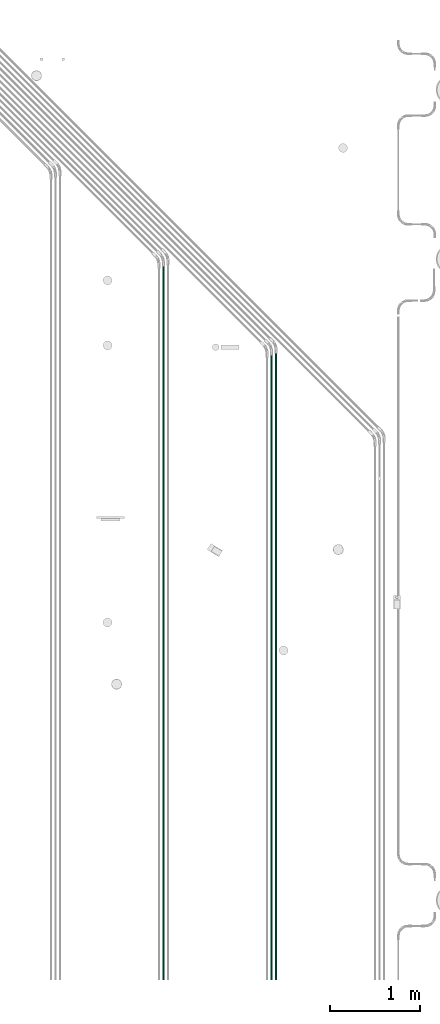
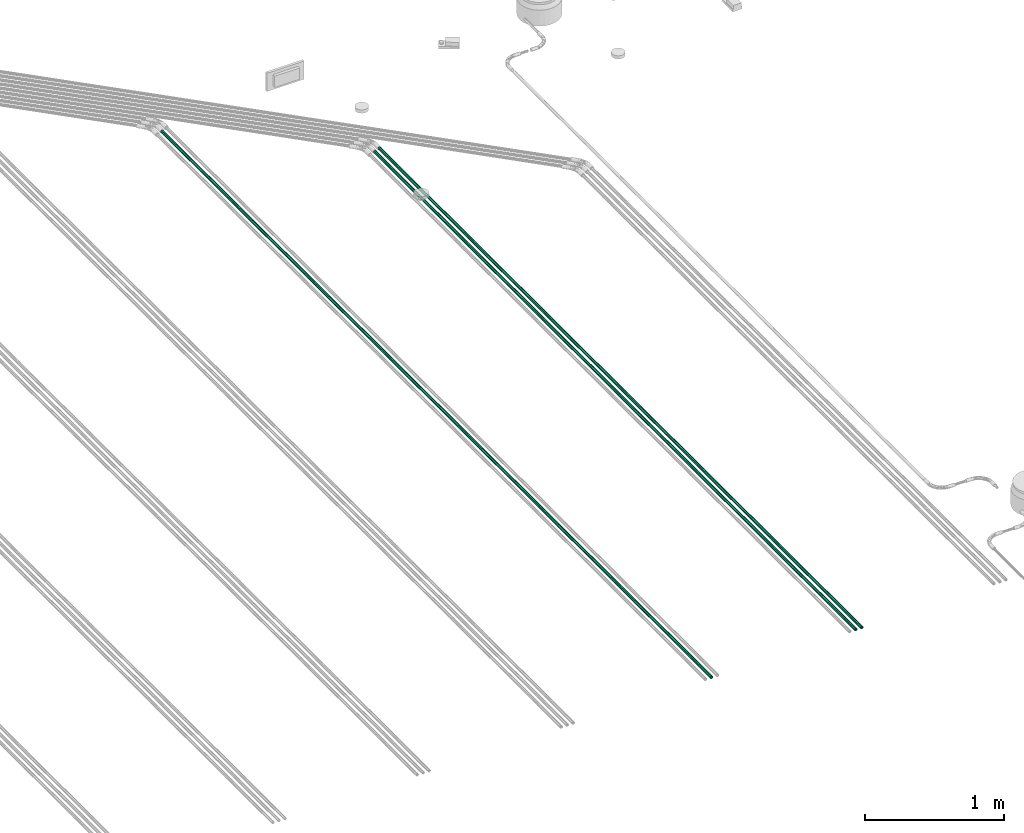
# One storey, part 37 of 51: 3 flow segments.
"""IFC2X3 building model written with IfcOpenShell, lengths in millimetres."""

from ifc_helpers import new_model, entity, si_unit, converted_unit, derived_unit, direction, frame, place, context, subcontext, project, spatial, faceted_brep, type_object, element, save


model = new_model("IFC2X3")

# Units and contexts
model_context = context("Model", 3, precision=0.01, world=frame((0.0, 4.29681676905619e-09, 0.0)), true_north=direction((4.01073788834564e-13, 1.0)))
plan_context = context("Plan", 3, precision=0.01, world=frame((0.0, 4.29681676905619e-09, 0.0)), true_north=direction((4.01073788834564e-13, 1.0)))
body_context = subcontext(model_context, "Body", "Model", "MODEL_VIEW")
ifc_project = project(units=[converted_unit("PLANEANGLEUNIT", "DEGREE", entity("IfcPositiveLengthMeasure", 0.0174532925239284), si_unit("PLANEANGLEUNIT", "RADIAN"), dimensions=[0, 0, 0, 0, 0, 0, 0]), si_unit("AREAUNIT", "SQUARE_METRE"), si_unit("LENGTHUNIT", "METRE", prefix="MILLI"), si_unit("MASSUNIT", "GRAM", prefix="KILO"), si_unit("POWERUNIT", "WATT"), si_unit("PRESSUREUNIT", "PASCAL"), si_unit("FORCEUNIT", "NEWTON", prefix="KILO"), si_unit("ELECTRICVOLTAGEUNIT", "VOLT"), si_unit("ELECTRICCURRENTUNIT", "AMPERE"), si_unit("THERMODYNAMICTEMPERATUREUNIT", "DEGREE_CELSIUS"), si_unit("TIMEUNIT", "SECOND"), si_unit("VOLUMEUNIT", "CUBIC_METRE"), derived_unit("LINEARVELOCITYUNIT", [(si_unit("LENGTHUNIT", "METRE"), 1), (si_unit("TIMEUNIT", "SECOND"), -1)]), derived_unit("VOLUMETRICFLOWRATEUNIT", [(si_unit("VOLUMEUNIT", "CUBIC_METRE"), 1), (si_unit("TIMEUNIT", "SECOND"), -1)]), derived_unit("THERMALTRANSMITTANCEUNIT", [(si_unit("POWERUNIT", "WATT"), 1), (si_unit("THERMODYNAMICTEMPERATUREUNIT", "KELVIN"), -1), (si_unit("AREAUNIT", "SQUARE_METRE"), -1)]), derived_unit("SOUNDPRESSUREUNIT", [(si_unit("PRESSUREUNIT", "PASCAL"), 1)])], contexts=[model_context, plan_context])

# Site, building, storey
site_placement = place(None, frame((0.0, -4.29681676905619e-09, 0.0), z_axis=(0.0, 0.0, 1.0), x_axis=(1.0, 0.0, 0.0)))
site = spatial("IfcSite", under=ifc_project, at=site_placement, Name="ENGM", CompositionType="ELEMENT")
building_placement = place(site_placement, frame((0.0, 4.29681676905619e-09, 0.0), z_axis=(0.0, 0.0, 1.0), x_axis=(1.0, 0.0, 0.0)))
building = spatial("IfcBuilding", under=site, at=building_placement, Name="TI", CompositionType="ELEMENT")
storey_placement = place(building_placement, frame((0.0, 0.0, 210900.0), z_axis=(0.0, 0.0, 1.0), x_axis=(1.0, 0.0, 0.0)))
storey = spatial("IfcBuildingStorey", under=building, at=storey_placement, Name="Nivå F", CompositionType="ELEMENT", Elevation=210900.0)

# Flow segments
cable_carrier_segment_type = type_object("IfcCableCarrierSegmentType", Name="Trekkerør, korrugert", PredefinedType="CONDUITSEGMENT")
flow_segment_1_placement = place(storey_placement, frame((610024.59, 695955.60614, -56.7999999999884), z_axis=(0.0, 0.0, 1.0), x_axis=(0.0, -1.0, 0.0)))
element("IfcFlowSegment", 1, at=flow_segment_1_placement, inside=storey, type_object=cable_carrier_segment_type, Name="Trekkerør, korrugert", context=body_context, shape_type="Brep", body=[
    faceted_brep([(6955.60614000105, 10.5, 0.0), (6955.60614000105, 10.3404814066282, -1.82330586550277), (0.0, 10.3404814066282, -1.82330586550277), (0.0, 10.5, 0.0), (6955.60614000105, 9.86677251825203, -3.59121150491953), (0.0, 9.86677251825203, -3.59121150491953), (6955.60614000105, 9.0932667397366, -5.25), (0.0, 9.0932667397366, -5.25), (6955.60614000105, 8.04346665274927, -6.74926990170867), (0.0, 8.04346665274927, -6.74926990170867), (6955.60614000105, 6.74926990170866, -8.04346665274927), (0.0, 6.74926990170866, -8.04346665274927), (6955.60614000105, 5.25, -9.09326673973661), (0.0, 5.25, -9.09326673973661), (6955.60614000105, 3.59121150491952, -9.86677251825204), (0.0, 3.59121150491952, -9.86677251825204), (6955.60614000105, 1.82330586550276, -10.3404814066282), (0.0, 1.82330586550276, -10.3404814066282), (6955.60614000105, -1.92881870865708e-15, -10.5), (0.0, -1.92881870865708e-15, -10.5), (6955.60614000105, -1.82330586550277, -10.3404814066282), (0.0, -1.82330586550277, -10.3404814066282), (6955.60614000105, -3.59121150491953, -9.86677251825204), (0.0, -3.59121150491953, -9.86677251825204), (6955.60614000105, -5.25, -9.0932667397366), (0.0, -5.25, -9.0932667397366), (6955.60614000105, -6.74926990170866, -8.04346665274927), (0.0, -6.74926990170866, -8.04346665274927), (6955.60614000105, -8.04346665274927, -6.74926990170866), (0.0, -8.04346665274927, -6.74926990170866), (6955.60614000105, -9.09326673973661, -5.25), (0.0, -9.09326673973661, -5.25), (6955.60614000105, -9.86677251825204, -3.59121150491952), (0.0, -9.86677251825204, -3.59121150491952), (6955.60614000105, -10.3404814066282, -1.82330586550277), (0.0, -10.3404814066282, -1.82330586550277), (6955.60614000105, -10.5, 1.28587913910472e-15), (0.0, -10.5, 1.28587913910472e-15), (6955.60614000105, -10.3404814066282, 1.82330586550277), (0.0, -10.3404814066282, 1.82330586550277), (6955.60614000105, -9.86677251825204, 3.59121150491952), (0.0, -9.86677251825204, 3.59121150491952), (6955.60614000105, -9.09326673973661, 5.25), (0.0, -9.09326673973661, 5.25), (6955.60614000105, -8.04346665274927, 6.74926990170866), (0.0, -8.04346665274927, 6.74926990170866), (6955.60614000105, -6.74926990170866, 8.04346665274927), (0.0, -6.74926990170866, 8.04346665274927), (6955.60614000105, -5.25, 9.09326673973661), (0.0, -5.25, 9.09326673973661), (6955.60614000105, -3.59121150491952, 9.86677251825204), (0.0, -3.59121150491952, 9.86677251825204), (6955.60614000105, -1.82330586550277, 10.3404814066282), (0.0, -1.82330586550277, 10.3404814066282), (6955.60614000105, 6.4293956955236e-16, 10.5), (0.0, 6.4293956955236e-16, 10.5), (6955.60614000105, 1.82330586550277, 10.3404814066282), (0.0, 1.82330586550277, 10.3404814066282), (6955.60614000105, 3.59121150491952, 9.86677251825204), (0.0, 3.59121150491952, 9.86677251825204), (6955.60614000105, 5.25, 9.09326673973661), (0.0, 5.25, 9.09326673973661), (6955.60614000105, 6.74926990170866, 8.04346665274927), (0.0, 6.74926990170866, 8.04346665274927), (6955.60614000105, 8.04346665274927, 6.74926990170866), (0.0, 8.04346665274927, 6.74926990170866), (6955.60614000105, 9.09326673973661, 5.25), (0.0, 9.09326673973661, 5.25), (6955.60614000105, 9.86677251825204, 3.59121150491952), (0.0, 9.86677251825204, 3.59121150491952), (6955.60614000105, 10.3404814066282, 1.82330586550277), (0.0, 10.3404814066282, 1.82330586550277), (6955.60614000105, 12.3100969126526, -2.17060222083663), (6955.60614000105, 12.5, 0.0), (0.0, 12.5, 0.0), (0.0, 12.3100969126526, -2.17060222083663), (6955.60614000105, 12.3100969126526, 2.17060222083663), (0.0, 12.3100969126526, 2.17060222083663), (6955.60614000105, 11.7461577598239, 4.27525179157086), (0.0, 11.7461577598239, 4.27525179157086), (6955.60614000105, 10.8253175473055, 6.25), (0.0, 10.8253175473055, 6.25), (6955.60614000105, 9.57555553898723, 8.03484512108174), (0.0, 9.57555553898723, 8.03484512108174), (6955.60614000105, 8.03484512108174, 9.57555553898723), (0.0, 8.03484512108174, 9.57555553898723), (6955.60614000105, 6.25, 10.8253175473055), (0.0, 6.25, 10.8253175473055), (6955.60614000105, 4.27525179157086, 11.7461577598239), (0.0, 4.27525179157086, 11.7461577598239), (6955.60614000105, 2.17060222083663, 12.3100969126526), (0.0, 2.17060222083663, 12.3100969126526), (6955.60614000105, 7.65404249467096e-16, 12.5), (0.0, 7.65404249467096e-16, 12.5), (6955.60614000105, -2.17060222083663, 12.3100969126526), (0.0, -2.17060222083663, 12.3100969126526), (6955.60614000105, -4.27525179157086, 11.7461577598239), (0.0, -4.27525179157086, 11.7461577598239), (6955.60614000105, -6.25, 10.8253175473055), (0.0, -6.25, 10.8253175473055), (6955.60614000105, -8.03484512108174, 9.57555553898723), (0.0, -8.03484512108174, 9.57555553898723), (6955.60614000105, -9.57555553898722, 8.03484512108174), (0.0, -9.57555553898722, 8.03484512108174), (6955.60614000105, -10.8253175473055, 6.25), (0.0, -10.8253175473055, 6.25), (6955.60614000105, -11.7461577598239, 4.27525179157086), (0.0, -11.7461577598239, 4.27525179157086), (6955.60614000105, -12.3100969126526, 2.17060222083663), (0.0, -12.3100969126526, 2.17060222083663), (6955.60614000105, -12.5, 1.53080849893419e-15), (0.0, -12.5, 1.53080849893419e-15), (6955.60614000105, -12.3100969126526, -2.17060222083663), (0.0, -12.3100969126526, -2.17060222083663), (6955.60614000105, -11.7461577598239, -4.27525179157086), (0.0, -11.7461577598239, -4.27525179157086), (6955.60614000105, -10.8253175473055, -6.25), (0.0, -10.8253175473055, -6.25), (6955.60614000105, -9.57555553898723, -8.03484512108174), (0.0, -9.57555553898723, -8.03484512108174), (6955.60614000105, -8.03484512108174, -9.57555553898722), (0.0, -8.03484512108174, -9.57555553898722), (6955.60614000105, -6.25000000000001, -10.8253175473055), (0.0, -6.25000000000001, -10.8253175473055), (6955.60614000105, -4.27525179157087, -11.7461577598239), (0.0, -4.27525179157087, -11.7461577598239), (6955.60614000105, -2.17060222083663, -12.3100969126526), (0.0, -2.17060222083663, -12.3100969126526), (6955.60614000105, -2.29621274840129e-15, -12.5), (0.0, -2.29621274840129e-15, -12.5), (6955.60614000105, 2.17060222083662, -12.3100969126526), (0.0, 2.17060222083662, -12.3100969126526), (6955.60614000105, 4.27525179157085, -11.7461577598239), (0.0, 4.27525179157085, -11.7461577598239), (6955.60614000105, 6.25, -10.8253175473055), (0.0, 6.25, -10.8253175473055), (6955.60614000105, 8.03484512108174, -9.57555553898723), (0.0, 8.03484512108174, -9.57555553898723), (6955.60614000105, 9.57555553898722, -8.03484512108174), (0.0, 9.57555553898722, -8.03484512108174), (6955.60614000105, 10.8253175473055, -6.25000000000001), (0.0, 10.8253175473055, -6.25000000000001), (6955.60614000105, 11.7461577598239, -4.27525179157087), (0.0, 11.7461577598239, -4.27525179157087)], [[[0, 1, 2, 3]], [[1, 4, 5, 2]], [[4, 6, 7, 5]], [[6, 8, 9, 7]], [[8, 10, 11, 9]], [[10, 12, 13, 11]], [[12, 14, 15, 13]], [[14, 16, 17, 15]], [[16, 18, 19, 17]], [[18, 20, 21, 19]], [[20, 22, 23, 21]], [[22, 24, 25, 23]], [[24, 26, 27, 25]], [[26, 28, 29, 27]], [[28, 30, 31, 29]], [[30, 32, 33, 31]], [[32, 34, 35, 33]], [[34, 36, 37, 35]], [[36, 38, 39, 37]], [[38, 40, 41, 39]], [[40, 42, 43, 41]], [[42, 44, 45, 43]], [[44, 46, 47, 45]], [[46, 48, 49, 47]], [[48, 50, 51, 49]], [[50, 52, 53, 51]], [[52, 54, 55, 53]], [[54, 56, 57, 55]], [[56, 58, 59, 57]], [[58, 60, 61, 59]], [[60, 62, 63, 61]], [[62, 64, 65, 63]], [[64, 66, 67, 65]], [[66, 68, 69, 67]], [[68, 70, 71, 69]], [[70, 0, 3, 71]], [[72, 73, 74, 75]], [[73, 76, 77, 74]], [[76, 78, 79, 77]], [[78, 80, 81, 79]], [[80, 82, 83, 81]], [[82, 84, 85, 83]], [[84, 86, 87, 85]], [[86, 88, 89, 87]], [[88, 90, 91, 89]], [[90, 92, 93, 91]], [[92, 94, 95, 93]], [[94, 96, 97, 95]], [[96, 98, 99, 97]], [[98, 100, 101, 99]], [[100, 102, 103, 101]], [[102, 104, 105, 103]], [[104, 106, 107, 105]], [[106, 108, 109, 107]], [[108, 110, 111, 109]], [[110, 112, 113, 111]], [[112, 114, 115, 113]], [[114, 116, 117, 115]], [[116, 118, 119, 117]], [[118, 120, 121, 119]], [[120, 122, 123, 121]], [[122, 124, 125, 123]], [[124, 126, 127, 125]], [[126, 128, 129, 127]], [[128, 130, 131, 129]], [[130, 132, 133, 131]], [[132, 134, 135, 133]], [[134, 136, 137, 135]], [[136, 138, 139, 137]], [[138, 140, 141, 139]], [[140, 142, 143, 141]], [[142, 72, 75, 143]], [[75, 74, 77, 79, 81, 83, 85, 87, 89, 91, 93, 95, 97, 99, 101, 103, 105, 107, 109, 111, 113, 115, 117, 119, 121, 123, 125, 127, 129, 131, 133, 135, 137, 139, 141, 143], [3, 2, 5, 7, 9, 11, 13, 15, 17, 19, 21, 23, 25, 27, 29, 31, 33, 35, 37, 39, 41, 43, 45, 47, 49, 51, 53, 55, 57, 59, 61, 63, 65, 67, 69, 71]], [[142, 140, 138, 136, 134, 132, 130, 128, 126, 124, 122, 120, 118, 116, 114, 112, 110, 108, 106, 104, 102, 100, 98, 96, 94, 92, 90, 88, 86, 84, 82, 80, 78, 76, 73, 72], [70, 68, 66, 64, 62, 60, 58, 56, 54, 52, 50, 48, 46, 44, 42, 40, 38, 36, 34, 32, 30, 28, 26, 24, 22, 20, 18, 16, 14, 12, 10, 8, 6, 4, 1, 0]]], orient=[[False], [False], [False], [False], [False], [False], [False], [False], [False], [False], [False], [False], [False], [False], [False], [False], [False], [False], [False], [False], [False], [False], [False], [False], [False], [False], [False], [False], [False], [False], [False], [False], [False], [False], [False], [False], [False], [False], [False], [False], [False], [False], [False], [False], [False], [False], [False], [False], [False], [False], [False], [False], [False], [False], [False], [False], [False], [False], [False], [False], [False], [False], [False], [False], [False], [False], [False], [False], [False], [False], [False], [False], [False, False], [False, False]]),
])
flow_segment_2_placement = place(storey_placement, frame((609974.59, 695934.89546, -56.7999999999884), z_axis=(0.0, 0.0, 1.0), x_axis=(0.0, -1.0, 0.0)))
element("IfcFlowSegment", 2, at=flow_segment_2_placement, inside=storey, type_object=cable_carrier_segment_type, Name="Trekkerør, korrugert", context=body_context, shape_type="Brep", body=[
    faceted_brep([(6934.89546000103, 10.5, 0.0), (6934.89546000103, 10.3404814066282, -1.82330586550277), (0.0, 10.3404814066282, -1.82330586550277), (0.0, 10.5, 0.0), (6934.89546000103, 9.86677251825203, -3.59121150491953), (0.0, 9.86677251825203, -3.59121150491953), (6934.89546000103, 9.0932667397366, -5.25), (0.0, 9.0932667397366, -5.25), (6934.89546000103, 8.04346665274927, -6.74926990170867), (0.0, 8.04346665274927, -6.74926990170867), (6934.89546000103, 6.74926990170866, -8.04346665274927), (0.0, 6.74926990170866, -8.04346665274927), (6934.89546000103, 5.25, -9.09326673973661), (0.0, 5.25, -9.09326673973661), (6934.89546000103, 3.59121150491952, -9.86677251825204), (0.0, 3.59121150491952, -9.86677251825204), (6934.89546000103, 1.82330586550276, -10.3404814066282), (0.0, 1.82330586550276, -10.3404814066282), (6934.89546000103, -1.92881870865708e-15, -10.5), (0.0, -1.92881870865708e-15, -10.5), (6934.89546000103, -1.82330586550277, -10.3404814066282), (0.0, -1.82330586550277, -10.3404814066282), (6934.89546000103, -3.59121150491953, -9.86677251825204), (0.0, -3.59121150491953, -9.86677251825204), (6934.89546000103, -5.25, -9.0932667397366), (0.0, -5.25, -9.0932667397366), (6934.89546000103, -6.74926990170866, -8.04346665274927), (0.0, -6.74926990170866, -8.04346665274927), (6934.89546000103, -8.04346665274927, -6.74926990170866), (0.0, -8.04346665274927, -6.74926990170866), (6934.89546000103, -9.09326673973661, -5.25), (0.0, -9.09326673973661, -5.25), (6934.89546000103, -9.86677251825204, -3.59121150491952), (0.0, -9.86677251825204, -3.59121150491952), (6934.89546000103, -10.3404814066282, -1.82330586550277), (0.0, -10.3404814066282, -1.82330586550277), (6934.89546000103, -10.5, 1.28587913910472e-15), (0.0, -10.5, 1.28587913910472e-15), (6934.89546000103, -10.3404814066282, 1.82330586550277), (0.0, -10.3404814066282, 1.82330586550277), (6934.89546000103, -9.86677251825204, 3.59121150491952), (0.0, -9.86677251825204, 3.59121150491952), (6934.89546000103, -9.09326673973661, 5.25), (0.0, -9.09326673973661, 5.25), (6934.89546000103, -8.04346665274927, 6.74926990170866), (0.0, -8.04346665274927, 6.74926990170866), (6934.89546000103, -6.74926990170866, 8.04346665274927), (0.0, -6.74926990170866, 8.04346665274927), (6934.89546000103, -5.25, 9.09326673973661), (0.0, -5.25, 9.09326673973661), (6934.89546000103, -3.59121150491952, 9.86677251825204), (0.0, -3.59121150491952, 9.86677251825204), (6934.89546000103, -1.82330586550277, 10.3404814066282), (0.0, -1.82330586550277, 10.3404814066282), (6934.89546000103, 6.4293956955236e-16, 10.5), (0.0, 6.4293956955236e-16, 10.5), (6934.89546000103, 1.82330586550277, 10.3404814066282), (0.0, 1.82330586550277, 10.3404814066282), (6934.89546000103, 3.59121150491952, 9.86677251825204), (0.0, 3.59121150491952, 9.86677251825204), (6934.89546000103, 5.25, 9.09326673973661), (0.0, 5.25, 9.09326673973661), (6934.89546000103, 6.74926990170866, 8.04346665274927), (0.0, 6.74926990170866, 8.04346665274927), (6934.89546000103, 8.04346665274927, 6.74926990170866), (0.0, 8.04346665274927, 6.74926990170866), (6934.89546000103, 9.09326673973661, 5.25), (0.0, 9.09326673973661, 5.25), (6934.89546000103, 9.86677251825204, 3.59121150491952), (0.0, 9.86677251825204, 3.59121150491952), (6934.89546000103, 10.3404814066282, 1.82330586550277), (0.0, 10.3404814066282, 1.82330586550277), (6934.89546000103, 12.3100969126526, -2.17060222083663), (6934.89546000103, 12.5, 0.0), (0.0, 12.5, 0.0), (0.0, 12.3100969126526, -2.17060222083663), (6934.89546000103, 12.3100969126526, 2.17060222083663), (0.0, 12.3100969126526, 2.17060222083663), (6934.89546000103, 11.7461577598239, 4.27525179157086), (0.0, 11.7461577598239, 4.27525179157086), (6934.89546000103, 10.8253175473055, 6.25), (0.0, 10.8253175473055, 6.25), (6934.89546000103, 9.57555553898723, 8.03484512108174), (0.0, 9.57555553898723, 8.03484512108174), (6934.89546000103, 8.03484512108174, 9.57555553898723), (0.0, 8.03484512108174, 9.57555553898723), (6934.89546000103, 6.25, 10.8253175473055), (0.0, 6.25, 10.8253175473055), (6934.89546000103, 4.27525179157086, 11.7461577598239), (0.0, 4.27525179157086, 11.7461577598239), (6934.89546000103, 2.17060222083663, 12.3100969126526), (0.0, 2.17060222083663, 12.3100969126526), (6934.89546000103, 7.65404249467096e-16, 12.5), (0.0, 7.65404249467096e-16, 12.5), (6934.89546000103, -2.17060222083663, 12.3100969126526), (0.0, -2.17060222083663, 12.3100969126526), (6934.89546000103, -4.27525179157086, 11.7461577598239), (0.0, -4.27525179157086, 11.7461577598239), (6934.89546000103, -6.25, 10.8253175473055), (0.0, -6.25, 10.8253175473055), (6934.89546000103, -8.03484512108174, 9.57555553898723), (0.0, -8.03484512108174, 9.57555553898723), (6934.89546000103, -9.57555553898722, 8.03484512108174), (0.0, -9.57555553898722, 8.03484512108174), (6934.89546000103, -10.8253175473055, 6.25), (0.0, -10.8253175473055, 6.25), (6934.89546000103, -11.7461577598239, 4.27525179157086), (0.0, -11.7461577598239, 4.27525179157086), (6934.89546000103, -12.3100969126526, 2.17060222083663), (0.0, -12.3100969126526, 2.17060222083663), (6934.89546000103, -12.5, 1.53080849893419e-15), (0.0, -12.5, 1.53080849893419e-15), (6934.89546000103, -12.3100969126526, -2.17060222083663), (0.0, -12.3100969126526, -2.17060222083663), (6934.89546000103, -11.7461577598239, -4.27525179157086), (0.0, -11.7461577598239, -4.27525179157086), (6934.89546000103, -10.8253175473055, -6.25), (0.0, -10.8253175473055, -6.25), (6934.89546000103, -9.57555553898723, -8.03484512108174), (0.0, -9.57555553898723, -8.03484512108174), (6934.89546000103, -8.03484512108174, -9.57555553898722), (0.0, -8.03484512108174, -9.57555553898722), (6934.89546000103, -6.25000000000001, -10.8253175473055), (0.0, -6.25000000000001, -10.8253175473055), (6934.89546000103, -4.27525179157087, -11.7461577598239), (0.0, -4.27525179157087, -11.7461577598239), (6934.89546000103, -2.17060222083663, -12.3100969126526), (0.0, -2.17060222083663, -12.3100969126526), (6934.89546000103, -2.29621274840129e-15, -12.5), (0.0, -2.29621274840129e-15, -12.5), (6934.89546000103, 2.17060222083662, -12.3100969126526), (0.0, 2.17060222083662, -12.3100969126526), (6934.89546000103, 4.27525179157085, -11.7461577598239), (0.0, 4.27525179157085, -11.7461577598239), (6934.89546000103, 6.25, -10.8253175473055), (0.0, 6.25, -10.8253175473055), (6934.89546000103, 8.03484512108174, -9.57555553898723), (0.0, 8.03484512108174, -9.57555553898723), (6934.89546000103, 9.57555553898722, -8.03484512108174), (0.0, 9.57555553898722, -8.03484512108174), (6934.89546000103, 10.8253175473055, -6.25000000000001), (0.0, 10.8253175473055, -6.25000000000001), (6934.89546000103, 11.7461577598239, -4.27525179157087), (0.0, 11.7461577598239, -4.27525179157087)], [[[0, 1, 2, 3]], [[1, 4, 5, 2]], [[4, 6, 7, 5]], [[6, 8, 9, 7]], [[8, 10, 11, 9]], [[10, 12, 13, 11]], [[12, 14, 15, 13]], [[14, 16, 17, 15]], [[16, 18, 19, 17]], [[18, 20, 21, 19]], [[20, 22, 23, 21]], [[22, 24, 25, 23]], [[24, 26, 27, 25]], [[26, 28, 29, 27]], [[28, 30, 31, 29]], [[30, 32, 33, 31]], [[32, 34, 35, 33]], [[34, 36, 37, 35]], [[36, 38, 39, 37]], [[38, 40, 41, 39]], [[40, 42, 43, 41]], [[42, 44, 45, 43]], [[44, 46, 47, 45]], [[46, 48, 49, 47]], [[48, 50, 51, 49]], [[50, 52, 53, 51]], [[52, 54, 55, 53]], [[54, 56, 57, 55]], [[56, 58, 59, 57]], [[58, 60, 61, 59]], [[60, 62, 63, 61]], [[62, 64, 65, 63]], [[64, 66, 67, 65]], [[66, 68, 69, 67]], [[68, 70, 71, 69]], [[70, 0, 3, 71]], [[72, 73, 74, 75]], [[73, 76, 77, 74]], [[76, 78, 79, 77]], [[78, 80, 81, 79]], [[80, 82, 83, 81]], [[82, 84, 85, 83]], [[84, 86, 87, 85]], [[86, 88, 89, 87]], [[88, 90, 91, 89]], [[90, 92, 93, 91]], [[92, 94, 95, 93]], [[94, 96, 97, 95]], [[96, 98, 99, 97]], [[98, 100, 101, 99]], [[100, 102, 103, 101]], [[102, 104, 105, 103]], [[104, 106, 107, 105]], [[106, 108, 109, 107]], [[108, 110, 111, 109]], [[110, 112, 113, 111]], [[112, 114, 115, 113]], [[114, 116, 117, 115]], [[116, 118, 119, 117]], [[118, 120, 121, 119]], [[120, 122, 123, 121]], [[122, 124, 125, 123]], [[124, 126, 127, 125]], [[126, 128, 129, 127]], [[128, 130, 131, 129]], [[130, 132, 133, 131]], [[132, 134, 135, 133]], [[134, 136, 137, 135]], [[136, 138, 139, 137]], [[138, 140, 141, 139]], [[140, 142, 143, 141]], [[142, 72, 75, 143]], [[75, 74, 77, 79, 81, 83, 85, 87, 89, 91, 93, 95, 97, 99, 101, 103, 105, 107, 109, 111, 113, 115, 117, 119, 121, 123, 125, 127, 129, 131, 133, 135, 137, 139, 141, 143], [3, 2, 5, 7, 9, 11, 13, 15, 17, 19, 21, 23, 25, 27, 29, 31, 33, 35, 37, 39, 41, 43, 45, 47, 49, 51, 53, 55, 57, 59, 61, 63, 65, 67, 69, 71]], [[142, 140, 138, 136, 134, 132, 130, 128, 126, 124, 122, 120, 118, 116, 114, 112, 110, 108, 106, 104, 102, 100, 98, 96, 94, 92, 90, 88, 86, 84, 82, 80, 78, 76, 73, 72], [70, 68, 66, 64, 62, 60, 58, 56, 54, 52, 50, 48, 46, 44, 42, 40, 38, 36, 34, 32, 30, 28, 26, 24, 22, 20, 18, 16, 14, 12, 10, 8, 6, 4, 1, 0]]], orient=[[False], [False], [False], [False], [False], [False], [False], [False], [False], [False], [False], [False], [False], [False], [False], [False], [False], [False], [False], [False], [False], [False], [False], [False], [False], [False], [False], [False], [False], [False], [False], [False], [False], [False], [False], [False], [False], [False], [False], [False], [False], [False], [False], [False], [False], [False], [False], [False], [False], [False], [False], [False], [False], [False], [False], [False], [False], [False], [False], [False], [False], [False], [False], [False], [False], [False], [False], [False], [False], [False], [False], [False], [False, False], [False, False]]),
])
flow_segment_3_placement = place(storey_placement, frame((608774.59, 696922.76342, -56.7999999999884), z_axis=(0.0, 0.0, 1.0), x_axis=(0.0, -1.0, 0.0)))
element("IfcFlowSegment", 3, at=flow_segment_3_placement, inside=storey, type_object=cable_carrier_segment_type, Name="Trekkerør, korrugert", context=body_context, shape_type="Brep", body=[
    faceted_brep([(7922.76342000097, 10.5, 0.0), (7922.76342000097, 10.3404814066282, -1.82330586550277), (0.0, 10.3404814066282, -1.82330586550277), (0.0, 10.5, 0.0), (7922.76342000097, 9.86677251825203, -3.59121150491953), (0.0, 9.86677251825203, -3.59121150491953), (7922.76342000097, 9.0932667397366, -5.25), (0.0, 9.0932667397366, -5.25), (7922.76342000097, 8.04346665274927, -6.74926990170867), (0.0, 8.04346665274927, -6.74926990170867), (7922.76342000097, 6.74926990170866, -8.04346665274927), (0.0, 6.74926990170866, -8.04346665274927), (7922.76342000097, 5.25, -9.09326673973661), (0.0, 5.25, -9.09326673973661), (7922.76342000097, 3.59121150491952, -9.86677251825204), (0.0, 3.59121150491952, -9.86677251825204), (7922.76342000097, 1.82330586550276, -10.3404814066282), (0.0, 1.82330586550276, -10.3404814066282), (7922.76342000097, -1.92881870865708e-15, -10.5), (0.0, -1.92881870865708e-15, -10.5), (7922.76342000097, -1.82330586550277, -10.3404814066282), (0.0, -1.82330586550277, -10.3404814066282), (7922.76342000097, -3.59121150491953, -9.86677251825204), (0.0, -3.59121150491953, -9.86677251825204), (7922.76342000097, -5.25, -9.0932667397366), (0.0, -5.25, -9.0932667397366), (7922.76342000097, -6.74926990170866, -8.04346665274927), (0.0, -6.74926990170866, -8.04346665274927), (7922.76342000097, -8.04346665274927, -6.74926990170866), (0.0, -8.04346665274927, -6.74926990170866), (7922.76342000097, -9.09326673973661, -5.25), (0.0, -9.09326673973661, -5.25), (7922.76342000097, -9.86677251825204, -3.59121150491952), (0.0, -9.86677251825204, -3.59121150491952), (7922.76342000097, -10.3404814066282, -1.82330586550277), (0.0, -10.3404814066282, -1.82330586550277), (7922.76342000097, -10.5, 1.28587913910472e-15), (0.0, -10.5, 1.28587913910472e-15), (7922.76342000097, -10.3404814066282, 1.82330586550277), (0.0, -10.3404814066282, 1.82330586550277), (7922.76342000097, -9.86677251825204, 3.59121150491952), (0.0, -9.86677251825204, 3.59121150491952), (7922.76342000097, -9.09326673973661, 5.25), (0.0, -9.09326673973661, 5.25), (7922.76342000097, -8.04346665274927, 6.74926990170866), (0.0, -8.04346665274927, 6.74926990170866), (7922.76342000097, -6.74926990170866, 8.04346665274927), (0.0, -6.74926990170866, 8.04346665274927), (7922.76342000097, -5.25, 9.09326673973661), (0.0, -5.25, 9.09326673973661), (7922.76342000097, -3.59121150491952, 9.86677251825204), (0.0, -3.59121150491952, 9.86677251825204), (7922.76342000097, -1.82330586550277, 10.3404814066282), (0.0, -1.82330586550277, 10.3404814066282), (7922.76342000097, 6.4293956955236e-16, 10.5), (0.0, 6.4293956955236e-16, 10.5), (7922.76342000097, 1.82330586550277, 10.3404814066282), (0.0, 1.82330586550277, 10.3404814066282), (7922.76342000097, 3.59121150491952, 9.86677251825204), (0.0, 3.59121150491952, 9.86677251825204), (7922.76342000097, 5.25, 9.09326673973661), (0.0, 5.25, 9.09326673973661), (7922.76342000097, 6.74926990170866, 8.04346665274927), (0.0, 6.74926990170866, 8.04346665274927), (7922.76342000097, 8.04346665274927, 6.74926990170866), (0.0, 8.04346665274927, 6.74926990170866), (7922.76342000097, 9.09326673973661, 5.25), (0.0, 9.09326673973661, 5.25), (7922.76342000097, 9.86677251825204, 3.59121150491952), (0.0, 9.86677251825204, 3.59121150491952), (7922.76342000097, 10.3404814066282, 1.82330586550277), (0.0, 10.3404814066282, 1.82330586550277), (7922.76342000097, 12.3100969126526, -2.17060222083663), (7922.76342000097, 12.5, 0.0), (0.0, 12.5, 0.0), (0.0, 12.3100969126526, -2.17060222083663), (7922.76342000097, 12.3100969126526, 2.17060222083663), (0.0, 12.3100969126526, 2.17060222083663), (7922.76342000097, 11.7461577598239, 4.27525179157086), (0.0, 11.7461577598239, 4.27525179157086), (7922.76342000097, 10.8253175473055, 6.25), (0.0, 10.8253175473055, 6.25), (7922.76342000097, 9.57555553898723, 8.03484512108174), (0.0, 9.57555553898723, 8.03484512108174), (7922.76342000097, 8.03484512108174, 9.57555553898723), (0.0, 8.03484512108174, 9.57555553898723), (7922.76342000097, 6.25, 10.8253175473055), (0.0, 6.25, 10.8253175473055), (7922.76342000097, 4.27525179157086, 11.7461577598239), (0.0, 4.27525179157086, 11.7461577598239), (7922.76342000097, 2.17060222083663, 12.3100969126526), (0.0, 2.17060222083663, 12.3100969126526), (7922.76342000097, 7.65404249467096e-16, 12.5), (0.0, 7.65404249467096e-16, 12.5), (7922.76342000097, -2.17060222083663, 12.3100969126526), (0.0, -2.17060222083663, 12.3100969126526), (7922.76342000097, -4.27525179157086, 11.7461577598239), (0.0, -4.27525179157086, 11.7461577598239), (7922.76342000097, -6.25, 10.8253175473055), (0.0, -6.25, 10.8253175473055), (7922.76342000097, -8.03484512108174, 9.57555553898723), (0.0, -8.03484512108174, 9.57555553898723), (7922.76342000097, -9.57555553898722, 8.03484512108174), (0.0, -9.57555553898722, 8.03484512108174), (7922.76342000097, -10.8253175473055, 6.25), (0.0, -10.8253175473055, 6.25), (7922.76342000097, -11.7461577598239, 4.27525179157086), (0.0, -11.7461577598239, 4.27525179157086), (7922.76342000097, -12.3100969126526, 2.17060222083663), (0.0, -12.3100969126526, 2.17060222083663), (7922.76342000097, -12.5, 1.53080849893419e-15), (0.0, -12.5, 1.53080849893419e-15), (7922.76342000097, -12.3100969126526, -2.17060222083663), (0.0, -12.3100969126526, -2.17060222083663), (7922.76342000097, -11.7461577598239, -4.27525179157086), (0.0, -11.7461577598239, -4.27525179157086), (7922.76342000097, -10.8253175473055, -6.25), (0.0, -10.8253175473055, -6.25), (7922.76342000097, -9.57555553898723, -8.03484512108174), (0.0, -9.57555553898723, -8.03484512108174), (7922.76342000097, -8.03484512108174, -9.57555553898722), (0.0, -8.03484512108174, -9.57555553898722), (7922.76342000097, -6.25000000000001, -10.8253175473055), (0.0, -6.25000000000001, -10.8253175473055), (7922.76342000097, -4.27525179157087, -11.7461577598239), (0.0, -4.27525179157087, -11.7461577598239), (7922.76342000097, -2.17060222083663, -12.3100969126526), (0.0, -2.17060222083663, -12.3100969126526), (7922.76342000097, -2.29621274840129e-15, -12.5), (0.0, -2.29621274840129e-15, -12.5), (7922.76342000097, 2.17060222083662, -12.3100969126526), (0.0, 2.17060222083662, -12.3100969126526), (7922.76342000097, 4.27525179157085, -11.7461577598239), (0.0, 4.27525179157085, -11.7461577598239), (7922.76342000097, 6.25, -10.8253175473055), (0.0, 6.25, -10.8253175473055), (7922.76342000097, 8.03484512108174, -9.57555553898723), (0.0, 8.03484512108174, -9.57555553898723), (7922.76342000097, 9.57555553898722, -8.03484512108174), (0.0, 9.57555553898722, -8.03484512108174), (7922.76342000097, 10.8253175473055, -6.25000000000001), (0.0, 10.8253175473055, -6.25000000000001), (7922.76342000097, 11.7461577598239, -4.27525179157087), (0.0, 11.7461577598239, -4.27525179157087)], [[[0, 1, 2, 3]], [[1, 4, 5, 2]], [[4, 6, 7, 5]], [[6, 8, 9, 7]], [[8, 10, 11, 9]], [[10, 12, 13, 11]], [[12, 14, 15, 13]], [[14, 16, 17, 15]], [[16, 18, 19, 17]], [[18, 20, 21, 19]], [[20, 22, 23, 21]], [[22, 24, 25, 23]], [[24, 26, 27, 25]], [[26, 28, 29, 27]], [[28, 30, 31, 29]], [[30, 32, 33, 31]], [[32, 34, 35, 33]], [[34, 36, 37, 35]], [[36, 38, 39, 37]], [[38, 40, 41, 39]], [[40, 42, 43, 41]], [[42, 44, 45, 43]], [[44, 46, 47, 45]], [[46, 48, 49, 47]], [[48, 50, 51, 49]], [[50, 52, 53, 51]], [[52, 54, 55, 53]], [[54, 56, 57, 55]], [[56, 58, 59, 57]], [[58, 60, 61, 59]], [[60, 62, 63, 61]], [[62, 64, 65, 63]], [[64, 66, 67, 65]], [[66, 68, 69, 67]], [[68, 70, 71, 69]], [[70, 0, 3, 71]], [[72, 73, 74, 75]], [[73, 76, 77, 74]], [[76, 78, 79, 77]], [[78, 80, 81, 79]], [[80, 82, 83, 81]], [[82, 84, 85, 83]], [[84, 86, 87, 85]], [[86, 88, 89, 87]], [[88, 90, 91, 89]], [[90, 92, 93, 91]], [[92, 94, 95, 93]], [[94, 96, 97, 95]], [[96, 98, 99, 97]], [[98, 100, 101, 99]], [[100, 102, 103, 101]], [[102, 104, 105, 103]], [[104, 106, 107, 105]], [[106, 108, 109, 107]], [[108, 110, 111, 109]], [[110, 112, 113, 111]], [[112, 114, 115, 113]], [[114, 116, 117, 115]], [[116, 118, 119, 117]], [[118, 120, 121, 119]], [[120, 122, 123, 121]], [[122, 124, 125, 123]], [[124, 126, 127, 125]], [[126, 128, 129, 127]], [[128, 130, 131, 129]], [[130, 132, 133, 131]], [[132, 134, 135, 133]], [[134, 136, 137, 135]], [[136, 138, 139, 137]], [[138, 140, 141, 139]], [[140, 142, 143, 141]], [[142, 72, 75, 143]], [[75, 74, 77, 79, 81, 83, 85, 87, 89, 91, 93, 95, 97, 99, 101, 103, 105, 107, 109, 111, 113, 115, 117, 119, 121, 123, 125, 127, 129, 131, 133, 135, 137, 139, 141, 143], [3, 2, 5, 7, 9, 11, 13, 15, 17, 19, 21, 23, 25, 27, 29, 31, 33, 35, 37, 39, 41, 43, 45, 47, 49, 51, 53, 55, 57, 59, 61, 63, 65, 67, 69, 71]], [[142, 140, 138, 136, 134, 132, 130, 128, 126, 124, 122, 120, 118, 116, 114, 112, 110, 108, 106, 104, 102, 100, 98, 96, 94, 92, 90, 88, 86, 84, 82, 80, 78, 76, 73, 72], [70, 68, 66, 64, 62, 60, 58, 56, 54, 52, 50, 48, 46, 44, 42, 40, 38, 36, 34, 32, 30, 28, 26, 24, 22, 20, 18, 16, 14, 12, 10, 8, 6, 4, 1, 0]]], orient=[[False], [False], [False], [False], [False], [False], [False], [False], [False], [False], [False], [False], [False], [False], [False], [False], [False], [False], [False], [False], [False], [False], [False], [False], [False], [False], [False], [False], [False], [False], [False], [False], [False], [False], [False], [False], [False], [False], [False], [False], [False], [False], [False], [False], [False], [False], [False], [False], [False], [False], [False], [False], [False], [False], [False], [False], [False], [False], [False], [False], [False], [False], [False], [False], [False], [False], [False], [False], [False], [False], [False], [False], [False, False], [False, False]]),
])

save(model, "model.ifc")
